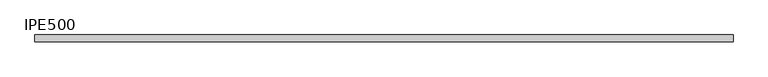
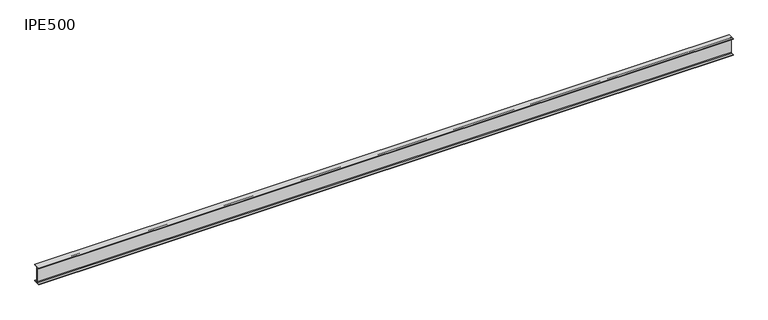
"""IFC4 building model written with IfcOpenShell, lengths in millimetres: beam geometry, IPE-Balken : IPE500."""

from ifc_helpers import new_model, si_unit, point, frame, frame_2d, origin, place, context, project, spatial, polyline, circle_curve, trimmed, segment, composite_curve, outline, extrude, source, transform, mapped, element, save


def ipe500_92aa9560(model_context):
    return source(origin(), model_context, "Body", "SweptSolid", [
        extrude(outline(composite_curve([segment(polyline([(100.0, -234.0), (100.0, -250.0), (-100.0, -250.0), (-100.0, -234.0), (-26.1, -234.0)]), True, "CONTINUOUS"), segment(trimmed(circle_curve(frame_2d((-26.1, -213.0)), 21.0), [point((-26.1, -234.0))], [point((-5.1, -213.0))], True, "CARTESIAN"), True, "CONTINUOUS"), segment(polyline([(-5.1, -213.0), (-5.1, 213.0)]), True, "CONTINUOUS"), segment(trimmed(circle_curve(frame_2d((-26.1, 213.0)), 21.0), [point((-5.1, 213.0))], [point((-26.1, 234.0))], True, "CARTESIAN"), True, "CONTINUOUS"), segment(polyline([(-26.1, 234.0), (-100.0, 234.0), (-100.0, 250.0), (100.0, 250.0), (100.0, 234.0), (26.1, 234.0)]), True, "CONTINUOUS"), segment(trimmed(circle_curve(frame_2d((26.1, 213.0)), 21.0), [point((26.1, 234.0))], [point((5.1, 213.0))], True, "CARTESIAN"), True, "CONTINUOUS"), segment(polyline([(5.1, 213.0), (5.1, -213.0)]), True, "CONTINUOUS"), segment(trimmed(circle_curve(frame_2d((26.1, -213.0)), 21.0), [point((5.1, -213.0))], [point((26.1, -234.0))], True, "CARTESIAN"), True, "CONTINUOUS"), segment(polyline([(26.1, -234.0), (100.0, -234.0)]), True, "CONTINUOUS")], self_intersect=False)), frame((-10026.2, 0.0, 0.0), z_axis=(1.0, 0.0, 0.0), x_axis=(0.0, 1.0, 0.0)), (0.0, 0.0, 1.0), 20052.4),
    ])


if __name__ == "__main__":
    model = new_model("IFC4")
    model_context = context("Model", 3, world=origin())
    ifc_project = project(units=[si_unit("LENGTHUNIT", "METRE", prefix="MILLI")], contexts=[model_context])
    site = spatial("IfcSite", under=ifc_project)
    building = spatial("IfcBuilding", under=site)
    placement = place(None, origin())
    ipe500_shape = ipe500_92aa9560(model_context)
    element("IfcBeam", 1, ObjectType="IPE-Balken : IPE500", at=placement, inside=building, context=model_context, shape_type="MappedRepresentation", body=[
        mapped(ipe500_shape, transform((0.0, 0.0, 0.0), x_axis=(1.0, 0.0, 0.0), y_axis=(0.0, 1.0, 0.0), z_axis=(0.0, 0.0, 1.0))),
    ])
    save(model, "model.ifc")
